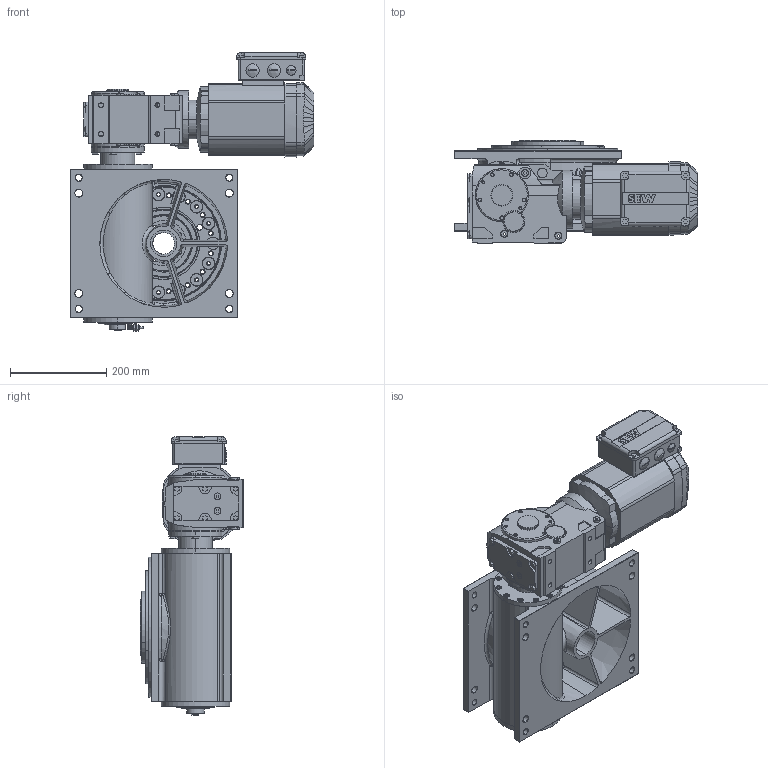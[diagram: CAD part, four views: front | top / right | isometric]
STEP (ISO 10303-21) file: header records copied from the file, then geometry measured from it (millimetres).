
FILE_DESCRIPTION (( 'STEP AP214' ), '1' );
FILE_NAME ('M235_SEW_KA37DRE80M4_D1_15.STEP', '2020-06-17T04:56:37', ( '' ), ( '' ), 'SwSTEP 2.0', 'SolidWorks 2020', '' );
FILE_SCHEMA (( 'AUTOMOTIVE_DESIGN' ));
Length unit declared in the file: millimetre
Products named in the file (1): M235_SEW_KA37DRE80M4_D1_15
Bounding box: 505.5 x 214 x 577.22 mm (x, y, z)
Surface area: 1142711.3 mm2 (no closed solid volume)
Topology: 0 solids, 95 shells, 1773 faces, 5247 edges, 3483 vertices
Faces by surface type: plane 665, cylinder 571, cone 298, bspline 147, torus 76, sphere 16
Entity records: 89163 total; most frequent: CARTESIAN_POINT 23236, DIRECTION 9810, ORIENTED_EDGE 8957, EDGE_CURVE 5199, AXIS2_PLACEMENT_3D 3605, VERTEX_POINT 3483, LINE 2600, VECTOR 2600
